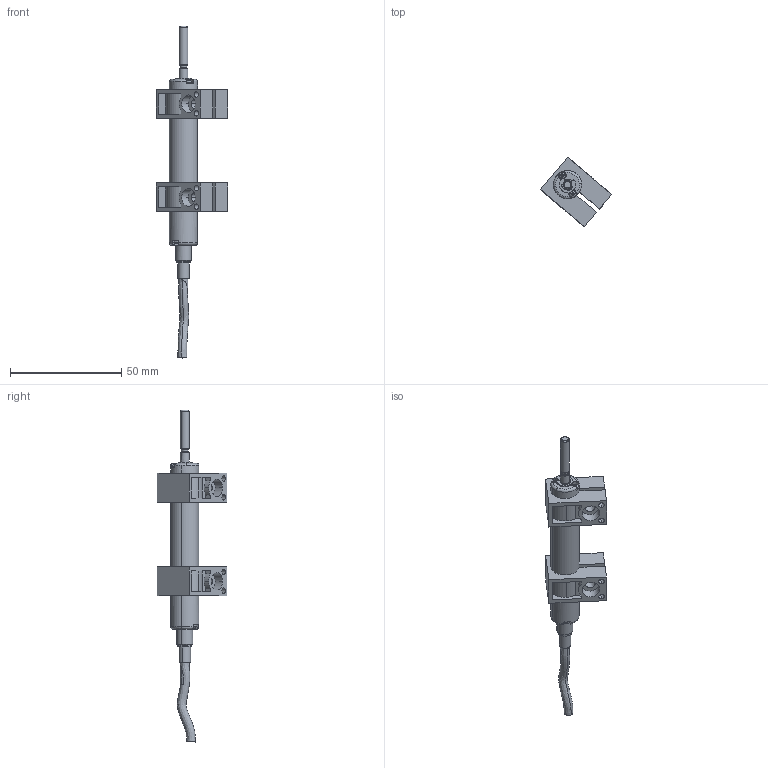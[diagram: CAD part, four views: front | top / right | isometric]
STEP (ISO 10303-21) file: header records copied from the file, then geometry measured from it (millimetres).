
FILE_DESCRIPTION(('STEP AP203'),'1');
FILE_NAME('C:/TPO v2/SharedFS/Outgoing/burster_8709-5025_7qs6y83vjw7xqp0fhmfti169s.stp','2013-08-27T15:04:57',('TraceParts'),('TraceParts S.A.'),'XStep 1.0',' ',' ');
FILE_SCHEMA(('CONFIG_CONTROL_DESIGN'));
Length unit declared in the file: millimetre
Products named in the file (1): 1
Bounding box: 32.11 x 31.32 x 149.2 mm (x, y, z)
Volume: 16838.4 mm3; surface area: 9917.9 mm2
Topology: 1 solids, 5 shells, 418 faces, 1115 edges, 724 vertices
Faces by surface type: plane 193, cylinder 120, cone 82, torus 12, sphere 8, bspline 3
Entity records: 14309 total; most frequent: CARTESIAN_POINT 3592, DIRECTION 2371, ORIENTED_EDGE 2230, EDGE_CURVE 1115, AXIS2_PLACEMENT_3D 949, VERTEX_POINT 724, CIRCLE 517, LINE 473
